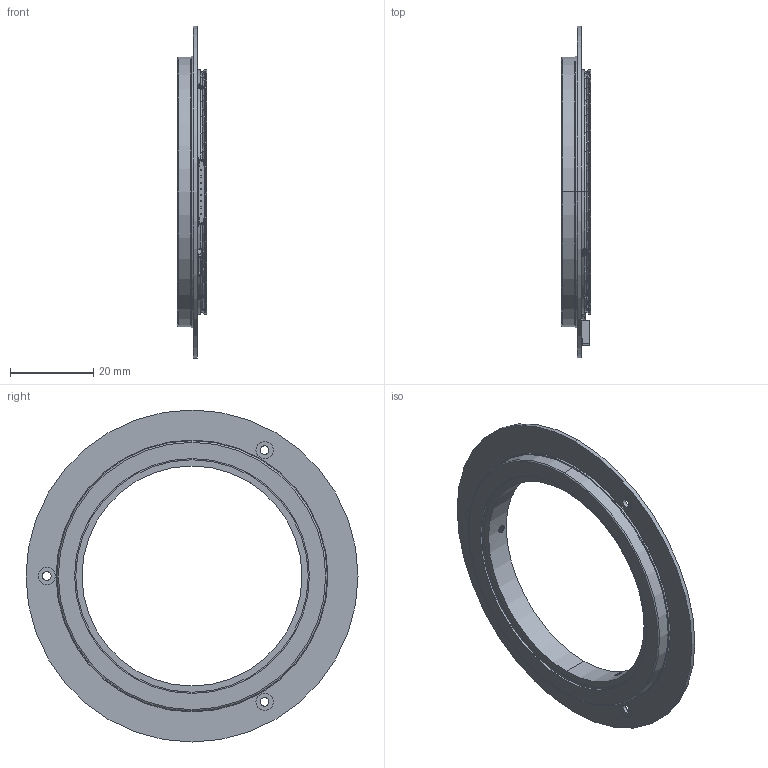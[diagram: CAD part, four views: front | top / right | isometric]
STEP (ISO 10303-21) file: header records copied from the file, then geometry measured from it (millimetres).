
FILE_DESCRIPTION (( 'STEP AP214' ), '1' );
FILE_NAME ('MBS-53-80¸üÐÂ.STEP', '2024-07-17T03:39:06', ( 'C' ), ( 'Microsoft' ), 'SwSTEP 2.0', 'SolidWorks 2016', '' );
FILE_SCHEMA (( 'AUTOMOTIVE_DESIGN' ));
Length unit declared in the file: millimetre
Products named in the file (8): ASM0001_ASM; ____-____2; ____-____1-70029; REVOLVE1_1_; NONE; ____-____1-40081; REVOLVE1_3_; MBS-53-80載陔
Assembly tree (7 placements, depth 3):
  MBS-53-80載陔
    ASM0001_ASM
      REVOLVE1_3_
      ____-____1-40081
      NONE
      REVOLVE1_1_
      ____-____1-70029
      ____-____2
Bounding box: 7 x 80 x 80 mm (x, y, z)
Volume: 6144.1 mm3; surface area: 13418 mm2
Topology: 6 solids, 6 shells, 867 faces, 2395 edges, 1549 vertices
Faces by surface type: plane 574, cylinder 182, bspline 69, sphere 16, torus 15, cone 11
Entity records: 49193 total; most frequent: CARTESIAN_POINT 19847, ORIENTED_EDGE 4758, DIRECTION 4007, EDGE_CURVE 2379, VECTOR 1769, LINE 1769, VERTEX_POINT 1549, AXIS2_PLACEMENT_3D 1119
